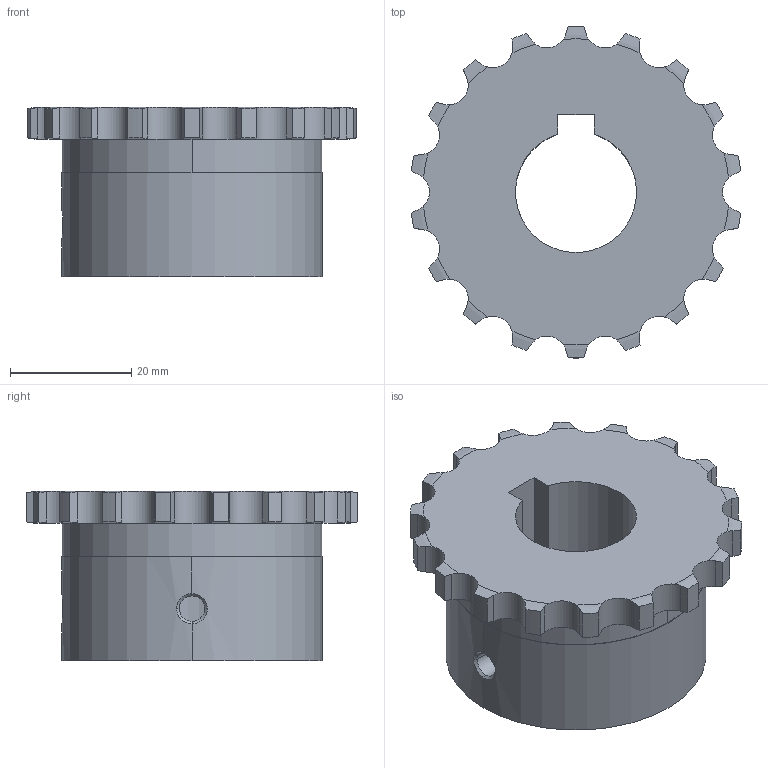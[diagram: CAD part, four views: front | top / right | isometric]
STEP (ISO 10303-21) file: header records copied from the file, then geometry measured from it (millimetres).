
FILE_DESCRIPTION((''),'2;1');
FILE_NAME('510-101-2018_PRT','2021-02-13T',('Brieden'),('Brieden'),'PRO/ENGINEER BY PARAMETRIC TECHNOLOGY CORPORATION, 2010160','PRO/ENGINEER BY PARAMETRIC TECHNOLOGY CORPORATION, 2010160','');
FILE_SCHEMA(('AUTOMOTIVE_DESIGN { 1 0 10303 214 1 1 1 1 }'));
Length unit declared in the file: millimetre
Products named in the file (1): 510-101-2018_PRT
Bounding box: 54.4 x 54.84 x 28 mm (x, y, z)
Volume: 34315.8 mm3; surface area: 9862.8 mm2
Topology: 1 solids, 1 shells, 130 faces, 375 edges, 248 vertices
Faces by surface type: cylinder 81, torus 36, plane 7, bspline 6
Entity records: 6348 total; most frequent: CARTESIAN_POINT 1940, ORIENTED_EDGE 750, DIRECTION 585, PRESENTATION_STYLE_ASSIGNMENT 376, STYLED_ITEM 376, CURVE_STYLE 375, EDGE_CURVE 375, VERTEX_POINT 248
